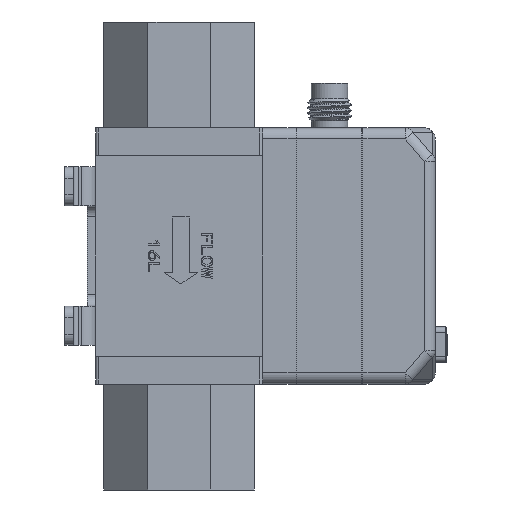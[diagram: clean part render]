
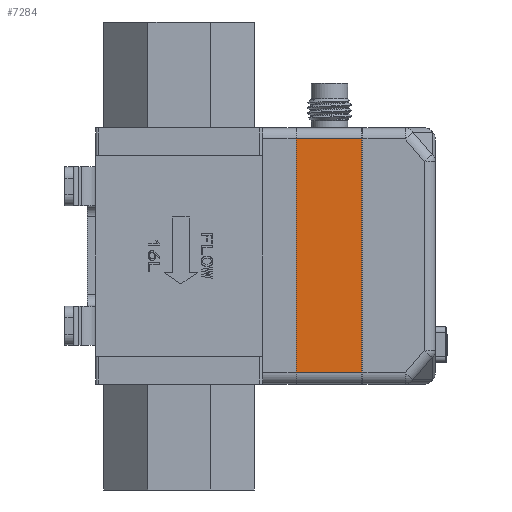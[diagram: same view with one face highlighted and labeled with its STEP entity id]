
A CAD part, left-side view. The second image highlights one B-rep face of the part: STEP entity #7284.
In plain terms, the highlighted planar face has unit normal (-1, 0, 0).
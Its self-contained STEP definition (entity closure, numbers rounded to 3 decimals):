
#7284=ADVANCED_FACE('',(#9405),#8229,.T.);
#8229=PLANE('',#31440);
#9405=FACE_OUTER_BOUND('',#11111,.T.);
#11111=EDGE_LOOP('',(#17698,#17699,#17700,#17701));
#17698=ORIENTED_EDGE('',*,*,#24310,.F.);
#17699=ORIENTED_EDGE('',*,*,#24311,.T.);
#17700=ORIENTED_EDGE('',*,*,#24295,.T.);
#17701=ORIENTED_EDGE('',*,*,#24286,.F.);
#20801=VERTEX_POINT('',#51710);
#20802=VERTEX_POINT('',#51712);
#20810=VERTEX_POINT('',#51735);
#20818=VERTEX_POINT('',#51763);
#24286=EDGE_CURVE('',#20801,#20802,#26861,.T.);
#24295=EDGE_CURVE('',#20810,#20802,#26862,.T.);
#24310=EDGE_CURVE('',#20818,#20801,#26872,.T.);
#24311=EDGE_CURVE('',#20818,#20810,#26873,.T.);
#26861=LINE('',#51711,#29467);
#26862=LINE('',#51734,#29468);
#26872=LINE('',#51764,#29478);
#26873=LINE('',#51766,#29479);
#29467=VECTOR('',#37316,1.);
#29468=VECTOR('',#37345,1.);
#29478=VECTOR('',#37377,1.);
#29479=VECTOR('',#37380,1.);
#31440=AXIS2_PLACEMENT_3D('',#51767,#37381,#37382);
#37316=DIRECTION('',(0.,0.,1.));
#37345=DIRECTION('',(0.,1.,0.));
#37377=DIRECTION('',(0.,1.,0.));
#37380=DIRECTION('',(0.,0.,1.));
#37381=DIRECTION('',(-1.,0.,0.));
#37382=DIRECTION('',(0.,0.,-1.));
#51710=CARTESIAN_POINT('',(-12.5,-21.,-11.));
#51711=CARTESIAN_POINT('',(-12.5,-21.,-11.));
#51712=CARTESIAN_POINT('',(-12.5,-21.,31.));
#51734=CARTESIAN_POINT('',(-12.5,-31.,31.));
#51735=CARTESIAN_POINT('',(-12.5,-32.8,31.));
#51763=CARTESIAN_POINT('',(-12.5,-32.8,-11.));
#51764=CARTESIAN_POINT('',(-12.5,-31.,-11.));
#51766=CARTESIAN_POINT('',(-12.5,-32.8,31.));
#51767=CARTESIAN_POINT('',(-12.5,-31.,-11.));
